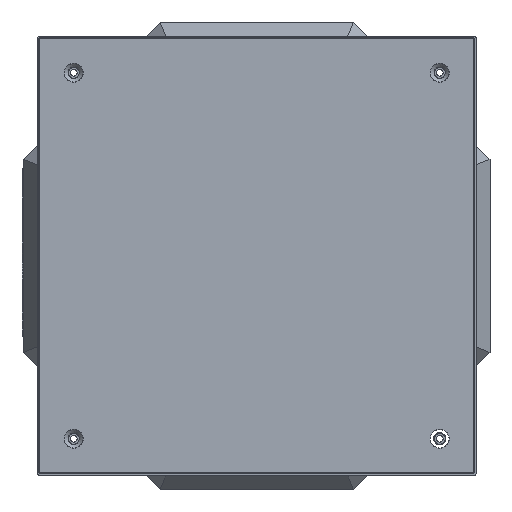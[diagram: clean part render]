
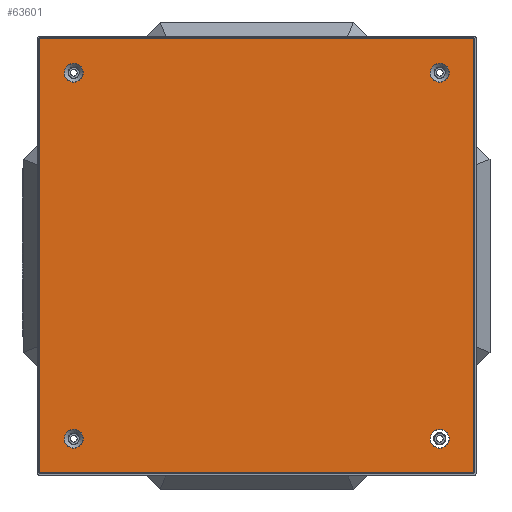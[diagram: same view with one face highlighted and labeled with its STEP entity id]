
A CAD part, top view. The second image highlights one B-rep face of the part: STEP entity #63601.
In plain terms, the highlighted planar face has unit normal (0, 0, 1).
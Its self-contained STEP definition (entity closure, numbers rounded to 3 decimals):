
#3426=CIRCLE('',#68963,19.464);
#3427=CIRCLE('',#68964,19.464);
#3450=CIRCLE('',#68995,19.464);
#3451=CIRCLE('',#68996,19.464);
#3474=CIRCLE('',#69027,19.464);
#3475=CIRCLE('',#69028,19.464);
#3498=CIRCLE('',#69059,19.464);
#3499=CIRCLE('',#69060,19.464);
#4114=FACE_BOUND('',#12010,.T.);
#4115=FACE_BOUND('',#12011,.T.);
#4116=FACE_BOUND('',#12012,.T.);
#4117=FACE_BOUND('',#12013,.T.);
#7935=FACE_OUTER_BOUND('',#12009,.T.);
#12009=EDGE_LOOP('',(#55249,#55250,#55251,#55252));
#12010=EDGE_LOOP('',(#55253,#55254));
#12011=EDGE_LOOP('',(#55255,#55256));
#12012=EDGE_LOOP('',(#55257,#55258));
#12013=EDGE_LOOP('',(#55259,#55260));
#17542=LINE('',#108232,#23076);
#17544=LINE('',#108236,#23078);
#17547=LINE('',#108241,#23081);
#17548=LINE('',#108244,#23082);
#23076=VECTOR('',#85505,10.);
#23078=VECTOR('',#85511,10.);
#23081=VECTOR('',#85518,10.);
#23082=VECTOR('',#85523,10.);
#29405=VERTEX_POINT('',#107929);
#29409=VERTEX_POINT('',#107941);
#29412=VERTEX_POINT('',#107951);
#29415=VERTEX_POINT('',#107961);
#29446=VERTEX_POINT('',#108048);
#29447=VERTEX_POINT('',#108050);
#29466=VERTEX_POINT('',#108102);
#29467=VERTEX_POINT('',#108104);
#29486=VERTEX_POINT('',#108156);
#29487=VERTEX_POINT('',#108158);
#29506=VERTEX_POINT('',#108210);
#29507=VERTEX_POINT('',#108212);
#38002=EDGE_CURVE('',#29446,#29447,#3426,.T.);
#38003=EDGE_CURVE('',#29447,#29446,#3427,.T.);
#38028=EDGE_CURVE('',#29466,#29467,#3450,.T.);
#38029=EDGE_CURVE('',#29467,#29466,#3451,.T.);
#38054=EDGE_CURVE('',#29486,#29487,#3474,.T.);
#38055=EDGE_CURVE('',#29487,#29486,#3475,.T.);
#38080=EDGE_CURVE('',#29506,#29507,#3498,.T.);
#38081=EDGE_CURVE('',#29507,#29506,#3499,.T.);
#38090=EDGE_CURVE('',#29409,#29415,#17542,.T.);
#38092=EDGE_CURVE('',#29405,#29409,#17544,.T.);
#38095=EDGE_CURVE('',#29412,#29405,#17547,.T.);
#38096=EDGE_CURVE('',#29415,#29412,#17548,.T.);
#55249=ORIENTED_EDGE('',*,*,#38090,.T.);
#55250=ORIENTED_EDGE('',*,*,#38096,.T.);
#55251=ORIENTED_EDGE('',*,*,#38095,.T.);
#55252=ORIENTED_EDGE('',*,*,#38092,.T.);
#55253=ORIENTED_EDGE('',*,*,#38003,.F.);
#55254=ORIENTED_EDGE('',*,*,#38002,.F.);
#55255=ORIENTED_EDGE('',*,*,#38029,.F.);
#55256=ORIENTED_EDGE('',*,*,#38028,.F.);
#55257=ORIENTED_EDGE('',*,*,#38055,.F.);
#55258=ORIENTED_EDGE('',*,*,#38054,.F.);
#55259=ORIENTED_EDGE('',*,*,#38081,.F.);
#55260=ORIENTED_EDGE('',*,*,#38080,.F.);
#57228=PLANE('',#69078);
#63601=ADVANCED_FACE('',(#7935,#4114,#4115,#4116,#4117),#57228,.T.);
#68963=AXIS2_PLACEMENT_3D('',#108051,#85281,#85282);
#68964=AXIS2_PLACEMENT_3D('',#108052,#85283,#85284);
#68995=AXIS2_PLACEMENT_3D('',#108105,#85347,#85348);
#68996=AXIS2_PLACEMENT_3D('',#108106,#85349,#85350);
#69027=AXIS2_PLACEMENT_3D('',#108159,#85413,#85414);
#69028=AXIS2_PLACEMENT_3D('',#108160,#85415,#85416);
#69059=AXIS2_PLACEMENT_3D('',#108213,#85479,#85480);
#69060=AXIS2_PLACEMENT_3D('',#108214,#85481,#85482);
#69078=AXIS2_PLACEMENT_3D('',#108246,#85526,#85527);
#85281=DIRECTION('center_axis',(0.,0.,
1.));
#85282=DIRECTION('ref_axis',(0.,-1.,0.));
#85283=DIRECTION('center_axis',(0.,0.,
1.));
#85284=DIRECTION('ref_axis',(0.,-1.,0.));
#85347=DIRECTION('center_axis',(0.,0.,
1.));
#85348=DIRECTION('ref_axis',(-1.,0.,0.));
#85349=DIRECTION('center_axis',(0.,0.,
1.));
#85350=DIRECTION('ref_axis',(-1.,0.,0.));
#85413=DIRECTION('center_axis',(0.,0.,
1.));
#85414=DIRECTION('ref_axis',(0.,1.,0.));
#85415=DIRECTION('center_axis',(0.,0.,
1.));
#85416=DIRECTION('ref_axis',(0.,1.,0.));
#85479=DIRECTION('center_axis',(0.,0.,
1.));
#85480=DIRECTION('ref_axis',(1.,0.,0.));
#85481=DIRECTION('center_axis',(0.,0.,
1.));
#85482=DIRECTION('ref_axis',(1.,0.,0.));
#85505=DIRECTION('',(0.,1.,0.));
#85511=DIRECTION('',(1.,0.,0.));
#85518=DIRECTION('',(0.,-1.,0.));
#85523=DIRECTION('',(-1.,0.,0.));
#85526=DIRECTION('center_axis',(0.,0.,1.));
#85527=DIRECTION('ref_axis',(1.,0.,0.));
#107929=CARTESIAN_POINT('',(616.183,755.8,533.5));
#107941=CARTESIAN_POINT('',(1506.183,755.8,533.5));
#107951=CARTESIAN_POINT('',(616.183,1645.8,533.5));
#107961=CARTESIAN_POINT('',(1506.183,1645.8,533.5));
#108048=CARTESIAN_POINT('',(686.183,1595.265,533.5));
#108050=CARTESIAN_POINT('',(705.647,1575.8,533.5));
#108051=CARTESIAN_POINT('Origin',(686.183,1575.8,533.5));
#108052=CARTESIAN_POINT('Origin',(686.183,1575.8,533.5));
#108102=CARTESIAN_POINT('',(1455.647,1575.8,533.5));
#108104=CARTESIAN_POINT('',(1436.183,1556.336,533.5));
#108105=CARTESIAN_POINT('Origin',(1436.183,1575.8,533.5));
#108106=CARTESIAN_POINT('Origin',(1436.183,1575.8,533.5));
#108156=CARTESIAN_POINT('',(1436.183,806.336,533.5));
#108158=CARTESIAN_POINT('',(1416.718,825.8,533.5));
#108159=CARTESIAN_POINT('Origin',(1436.183,825.8,533.5));
#108160=CARTESIAN_POINT('Origin',(1436.183,825.8,533.5));
#108210=CARTESIAN_POINT('',(666.718,825.8,533.5));
#108212=CARTESIAN_POINT('',(686.183,845.265,533.5));
#108213=CARTESIAN_POINT('Origin',(686.183,825.8,533.5));
#108214=CARTESIAN_POINT('Origin',(686.183,825.8,533.5));
#108232=CARTESIAN_POINT('',(1506.183,1423.3,533.5));
#108236=CARTESIAN_POINT('',(1286.183,755.8,533.5));
#108241=CARTESIAN_POINT('',(616.183,978.3,533.5));
#108244=CARTESIAN_POINT('',(836.183,1645.8,533.5));
#108246=CARTESIAN_POINT('Origin',(1061.183,1200.8,533.5));
